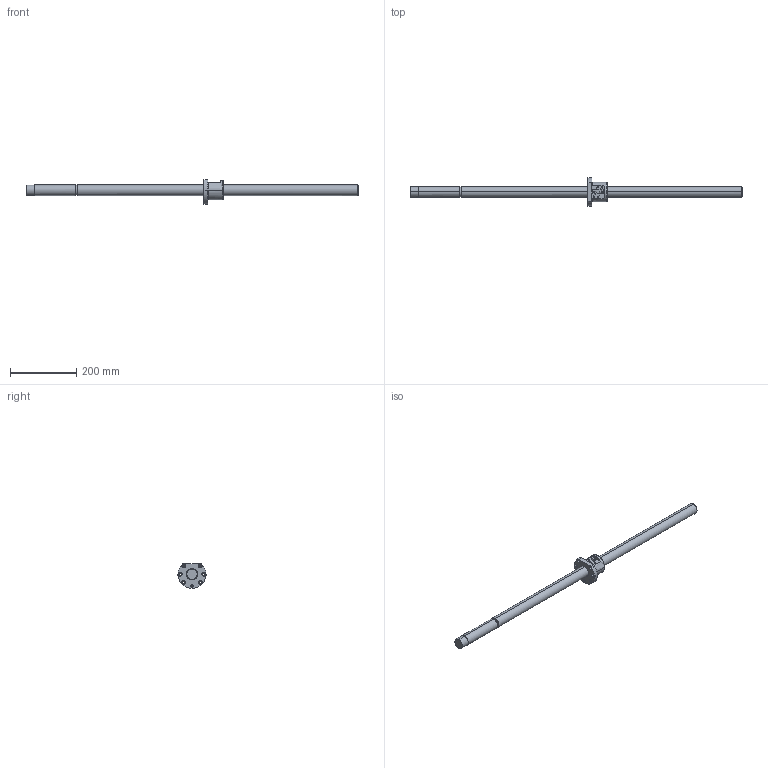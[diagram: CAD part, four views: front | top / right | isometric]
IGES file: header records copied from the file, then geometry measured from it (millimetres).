
Global section: file name: No Iges File Name specified; native system: AutoDesk Inventor R10; preprocessor: AutoDesk Inventor Iges Exporter R10; author: No Author specified; organization: No Organization specified; date: 20101224.142423; units: millimetre
Bounding box: 1000 x 85 x 74.5 mm (x, y, z)
Surface area: 131801.5 mm2 (no closed solid volume)
Topology: 0 solids, 0 shells, 161 faces, 1216 edges, 1214 vertices
Faces by surface type: bspline 161
